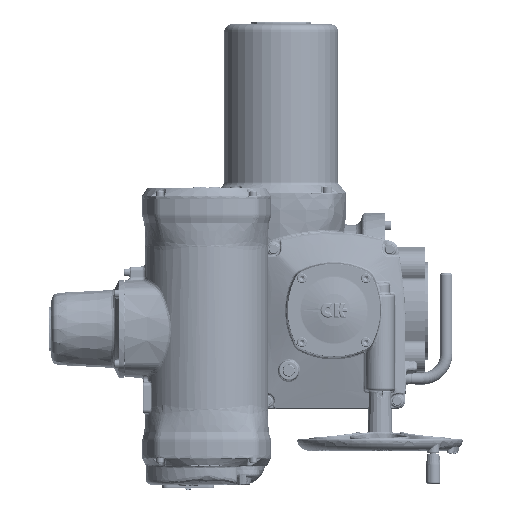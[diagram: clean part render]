
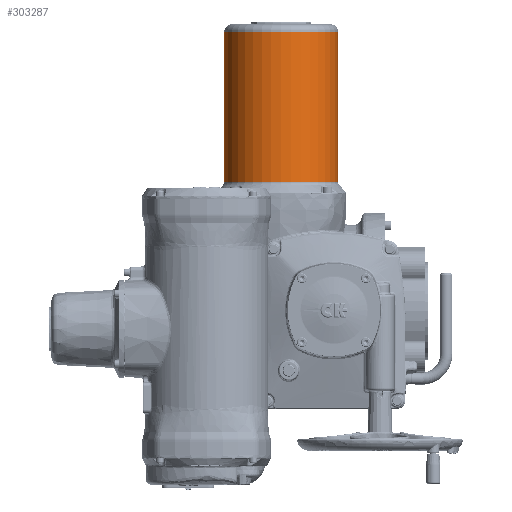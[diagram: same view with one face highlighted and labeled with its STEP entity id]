
A CAD part, top view. The second image highlights one B-rep face of the part: STEP entity #303287.
In plain terms, the highlighted cylindrical face has radius 75.5 mm (diameter 151 mm), a full revolution.
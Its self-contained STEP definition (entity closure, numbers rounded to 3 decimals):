
#5499=CYLINDRICAL_SURFACE('',#317920,75.5);
#10359=CIRCLE('',#317917,75.5);
#10360=CIRCLE('',#317919,75.5);
#20520=B_SPLINE_CURVE_WITH_KNOTS('',3,(#459927,#459928,#459929,#459930,
#459931,#459932,#459933,#459934,#459935,#459936,#459937,#459938,#459939,
#459940,#459941,#459942,#459943,#459944,#459945,#459946,#459947,#459948,
#459949,#459950,#459951,#459952,#459953,#459954,#459955,#459956,#459957,
#459958,#459959,#459960,#459961,#459962,#459963),.UNSPECIFIED.,.T.,.F.,
(1,1,1,1,1,1,1,1,1,1,1,1,1,1,1,1,1,1,1,1,1,1,1,1,1,1,1,1,1,1,1,1,1,1,1,
1,1,1,1,1,1),(-0.095,-0.064,-0.033,
0.,0.03,0.061,0.092,0.123,0.155,
0.186,0.217,0.234,0.249,
0.28,0.311,0.342,0.373,
0.405,0.436,0.467,0.498,
0.53,0.561,0.592,0.623,
0.655,0.686,0.717,0.748,
0.78,0.796,0.812,0.842,
0.873,0.905,0.936,0.967,
1.,1.03,1.061,1.092),.UNSPECIFIED.);
#43811=ORIENTED_EDGE('',*,*,#98850,.T.);
#43812=ORIENTED_EDGE('',*,*,#98852,.T.);
#43813=ORIENTED_EDGE('',*,*,#98851,.T.);
#98850=EDGE_CURVE('',#127441,#127441,#10359,.T.);
#98851=EDGE_CURVE('',#127442,#127442,#10360,.T.);
#98852=EDGE_CURVE('',#127443,#127443,#20520,.T.);
#127441=VERTEX_POINT('',#459922);
#127442=VERTEX_POINT('',#459925);
#127443=VERTEX_POINT('',#459964);
#173504=EDGE_LOOP('',(#43811));
#173505=EDGE_LOOP('',(#43812));
#173506=EDGE_LOOP('',(#43813));
#188512=FACE_BOUND('',#173504,.T.);
#188513=FACE_BOUND('',#173505,.T.);
#188514=FACE_BOUND('',#173506,.T.);
#303287=ADVANCED_FACE('',(#188512,#188513,#188514),#5499,.T.);
#317917=AXIS2_PLACEMENT_3D('',#459921,#342755,#342756);
#317919=AXIS2_PLACEMENT_3D('',#459924,#342759,#342760);
#317920=AXIS2_PLACEMENT_3D('',#459926,#342761,#342762);
#342755=DIRECTION('',(0.,-1.,0.));
#342756=DIRECTION('',(1.,0.,0.));
#342759=DIRECTION('',(0.,1.,0.));
#342760=DIRECTION('',(-1.,0.,0.));
#342761=DIRECTION('',(0.,1.,0.));
#342762=DIRECTION('',(-1.,0.,0.));
#459921=CARTESIAN_POINT('',(-70.,369.45,77.));
#459922=CARTESIAN_POINT('',(5.5,369.45,77.));
#459924=CARTESIAN_POINT('',(-70.,170.096,77.));
#459925=CARTESIAN_POINT('',(-145.5,170.096,77.));
#459926=CARTESIAN_POINT('',(-70.,101.95,77.));
#459927=CARTESIAN_POINT('',(-53.994,255.967,3.214));
#459928=CARTESIAN_POINT('',(-53.305,259.325,3.369));
#459929=CARTESIAN_POINT('',(-53.237,262.744,3.384));
#459930=CARTESIAN_POINT('',(-53.752,266.045,3.268));
#459931=CARTESIAN_POINT('',(-54.879,269.247,3.025));
#459932=CARTESIAN_POINT('',(-56.574,272.204,2.695));
#459933=CARTESIAN_POINT('',(-58.775,274.752,2.325));
#459934=CARTESIAN_POINT('',(-61.47,276.847,1.965));
#459935=CARTESIAN_POINT('',(-64.019,278.099,1.724));
#459936=CARTESIAN_POINT('',(-66.213,278.767,1.589));
#459937=CARTESIAN_POINT('',(-68.443,279.19,1.502));
#459938=CARTESIAN_POINT('',(-71.242,279.266,1.485));
#459939=CARTESIAN_POINT('',(-74.566,278.649,1.614));
#459940=CARTESIAN_POINT('',(-77.708,277.329,1.875));
#459941=CARTESIAN_POINT('',(-80.491,275.412,2.217));
#459942=CARTESIAN_POINT('',(-82.852,272.968,2.592));
#459943=CARTESIAN_POINT('',(-84.698,270.125,2.939));
#459944=CARTESIAN_POINT('',(-85.984,266.978,3.209));
#459945=CARTESIAN_POINT('',(-86.688,263.628,3.367));
#459946=CARTESIAN_POINT('',(-86.773,260.23,3.387));
#459947=CARTESIAN_POINT('',(-86.249,256.861,3.268));
#459948=CARTESIAN_POINT('',(-85.127,253.659,3.026));
#459949=CARTESIAN_POINT('',(-83.437,250.711,2.697));
#459950=CARTESIAN_POINT('',(-81.225,248.152,2.325));
#459951=CARTESIAN_POINT('',(-78.548,246.063,1.967));
#459952=CARTESIAN_POINT('',(-75.497,244.562,1.678));
#459953=CARTESIAN_POINT('',(-72.191,243.734,1.507));
#459954=CARTESIAN_POINT('',(-69.332,243.642,1.488));
#459955=CARTESIAN_POINT('',(-67.055,243.949,1.551));
#459956=CARTESIAN_POINT('',(-64.849,244.495,1.663));
#459957=CARTESIAN_POINT('',(-62.285,245.578,1.876));
#459958=CARTESIAN_POINT('',(-59.503,247.493,2.218));
#459959=CARTESIAN_POINT('',(-57.154,249.925,2.591));
#459960=CARTESIAN_POINT('',(-55.307,252.767,2.938));
#459961=CARTESIAN_POINT('',(-53.994,255.967,3.214));
#459962=CARTESIAN_POINT('',(-53.305,259.325,3.369));
#459963=CARTESIAN_POINT('',(-53.237,262.744,3.384));
#459964=CARTESIAN_POINT('',(-53.396,259.452,3.348));
